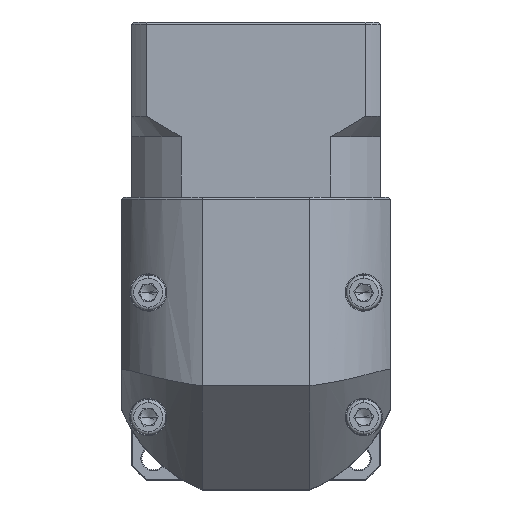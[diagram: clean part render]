
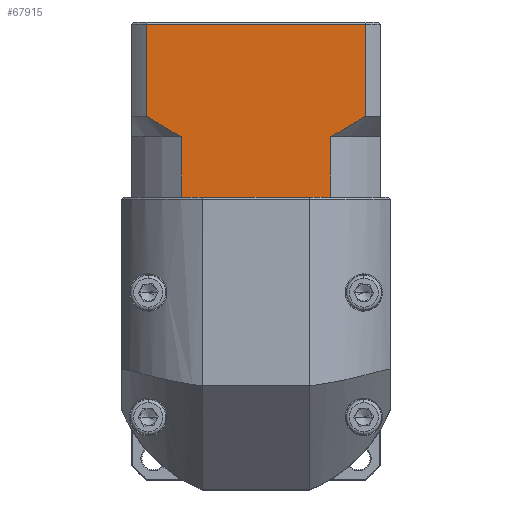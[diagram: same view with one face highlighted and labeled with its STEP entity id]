
A CAD part, top view. The second image highlights one B-rep face of the part: STEP entity #67915.
In plain terms, the highlighted planar face has unit normal (0, 0, 1).
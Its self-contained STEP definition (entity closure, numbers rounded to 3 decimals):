
#1301 = LINE ( 'NONE', #21452, #21660 ) ;
#2653 = VERTEX_POINT ( 'NONE', #83007 ) ;
#3713 = CARTESIAN_POINT ( 'NONE',  ( -96.006, 64.991, 82.485 ) ) ;
#4550 = DIRECTION ( 'NONE',  ( 0., -1., 0. ) ) ;
#5237 = LINE ( 'NONE', #99705, #94793 ) ;
#5372 = DIRECTION ( 'NONE',  ( 1., 0., 0. ) ) ;
#7696 = VECTOR ( 'NONE', #17915, 1000. ) ;
#9428 = EDGE_CURVE ( 'NONE', #41212, #13573, #100978, .T. ) ;
#10036 = DIRECTION ( 'NONE',  ( 0., 1., 0. ) ) ;
#10302 = CARTESIAN_POINT ( 'NONE',  ( -45.83, 61.764, 82.485 ) ) ;
#10574 = EDGE_CURVE ( 'NONE', #41212, #57211, #53747, .T. ) ;
#13154 = ORIENTED_EDGE ( 'NONE', *, *, #49431, .F. ) ;
#13573 = VERTEX_POINT ( 'NONE', #101416 ) ;
#16163 = VERTEX_POINT ( 'NONE', #57440 ) ;
#16335 = CARTESIAN_POINT ( 'NONE',  ( -51.377, 63.314, 82.485 ) ) ;
#16437 = DIRECTION ( 'NONE',  ( 1., 0., 0. ) ) ;
#16587 = EDGE_LOOP ( 'NONE', ( #83692, #105935, #78566, #66416, #13154, #91865, #60071, #21432, #25481, #29237 ) ) ;
#17389 = B_SPLINE_CURVE_WITH_KNOTS ( 'NONE', 3,
 ( #52052, #59611, #16335, #77013, #112629, #69078 ),
 .UNSPECIFIED., .F., .F.,
 ( 4, 2, 4 ),
 ( 0.1, 0.104, 0.109 ),
 .UNSPECIFIED. ) ;
#17915 = DIRECTION ( 'NONE',  ( 0., -1., 0. ) ) ;
#18320 = CARTESIAN_POINT ( 'NONE',  ( -45.83, 88.964, 82.485 ) ) ;
#20874 = CARTESIAN_POINT ( 'NONE',  ( -45.83, 66.764, 82.485 ) ) ;
#21432 = ORIENTED_EDGE ( 'NONE', *, *, #102633, .T. ) ;
#21452 = CARTESIAN_POINT ( 'NONE',  ( -102.287, 47.264, 82.485 ) ) ;
#21660 = VECTOR ( 'NONE', #81778, 1000. ) ;
#23960 = CARTESIAN_POINT ( 'NONE',  ( -90.315, 47.264, 82.485 ) ) ;
#24179 = VERTEX_POINT ( 'NONE', #34630 ) ;
#25481 = ORIENTED_EDGE ( 'NONE', *, *, #97970, .F. ) ;
#27886 = VECTOR ( 'NONE', #52958, 1000. ) ;
#28020 = FACE_OUTER_BOUND ( 'NONE', #16587, .T. ) ;
#29102 = VERTEX_POINT ( 'NONE', #110788 ) ;
#29237 = ORIENTED_EDGE ( 'NONE', *, *, #67315, .T. ) ;
#31066 = VERTEX_POINT ( 'NONE', #82331 ) ;
#31721 = DIRECTION ( 'NONE',  ( 0., 1., 0. ) ) ;
#32114 = LINE ( 'NONE', #60778, #51111 ) ;
#34630 = CARTESIAN_POINT ( 'NONE',  ( -89.324, 47.264, 82.485 ) ) ;
#38286 = CARTESIAN_POINT ( 'NONE',  ( -98.745, 66.764, 82.485 ) ) ;
#38614 = EDGE_CURVE ( 'NONE', #48655, #24179, #43054, .T. ) ;
#38966 = CARTESIAN_POINT ( 'NONE',  ( -102.287, 89.464, 82.485 ) ) ;
#39217 = CARTESIAN_POINT ( 'NONE',  ( -102.287, 47.264, 82.485 ) ) ;
#41212 = VERTEX_POINT ( 'NONE', #18320 ) ;
#42292 = DIRECTION ( 'NONE',  ( 0., 1., 0. ) ) ;
#43054 = LINE ( 'NONE', #59357, #48306 ) ;
#43991 = VECTOR ( 'NONE', #10036, 1000. ) ;
#48306 = VECTOR ( 'NONE', #16437, 1000. ) ;
#48655 = VERTEX_POINT ( 'NONE', #23960 ) ;
#49431 = EDGE_CURVE ( 'NONE', #48655, #16163, #75093, .T. ) ;
#51111 = VECTOR ( 'NONE', #42292, 1000. ) ;
#52052 = CARTESIAN_POINT ( 'NONE',  ( -54.259, 61.764, 82.485 ) ) ;
#52593 = AXIS2_PLACEMENT_3D ( 'NONE', #38966, #108285, #31721 ) ;
#52958 = DIRECTION ( 'NONE',  ( -1., 0., 0. ) ) ;
#53374 = LINE ( 'NONE', #39217, #94006 ) ;
#53747 = LINE ( 'NONE', #10302, #7696 ) ;
#56872 = EDGE_CURVE ( 'NONE', #31066, #13573, #32114, .T. ) ;
#57211 = VERTEX_POINT ( 'NONE', #20874 ) ;
#57440 = CARTESIAN_POINT ( 'NONE',  ( -90.315, 61.764, 82.485 ) ) ;
#59357 = CARTESIAN_POINT ( 'NONE',  ( -102.287, 47.264, 82.485 ) ) ;
#59611 = CARTESIAN_POINT ( 'NONE',  ( -52.803, 62.514, 82.485 ) ) ;
#60071 = ORIENTED_EDGE ( 'NONE', *, *, #64015, .T. ) ;
#60778 = CARTESIAN_POINT ( 'NONE',  ( -98.745, 61.764, 82.485 ) ) ;
#64015 = EDGE_CURVE ( 'NONE', #24179, #2653, #53374, .T. ) ;
#64413 = CARTESIAN_POINT ( 'NONE',  ( -93.198, 63.315, 82.485 ) ) ;
#66416 = ORIENTED_EDGE ( 'NONE', *, *, #99372, .T. ) ;
#67315 = EDGE_CURVE ( 'NONE', #29102, #57211, #17389, .T. ) ;
#67915 = ADVANCED_FACE ( 'NONE', ( #28020 ), #74874, .F. ) ;
#69078 = CARTESIAN_POINT ( 'NONE',  ( -45.83, 66.764, 82.485 ) ) ;
#71097 = CARTESIAN_POINT ( 'NONE',  ( -90.315, 61.764, 82.485 ) ) ;
#73694 = CARTESIAN_POINT ( 'NONE',  ( -54.259, 47.264, 82.485 ) ) ;
#74874 = PLANE ( 'NONE',  #52593 ) ;
#75093 = LINE ( 'NONE', #71097, #43991 ) ;
#77013 = CARTESIAN_POINT ( 'NONE',  ( -48.572, 64.988, 82.485 ) ) ;
#78566 = ORIENTED_EDGE ( 'NONE', *, *, #56872, .F. ) ;
#81778 = DIRECTION ( 'NONE',  ( 1., 0., 0. ) ) ;
#82331 = CARTESIAN_POINT ( 'NONE',  ( -98.745, 66.764, 82.485 ) ) ;
#83007 = CARTESIAN_POINT ( 'NONE',  ( -55.25, 47.264, 82.485 ) ) ;
#83692 = ORIENTED_EDGE ( 'NONE', *, *, #10574, .F. ) ;
#87493 = VERTEX_POINT ( 'NONE', #73694 ) ;
#87757 = CARTESIAN_POINT ( 'NONE',  ( -102.287, 88.964, 82.485 ) ) ;
#90512 = CARTESIAN_POINT ( 'NONE',  ( -91.767, 62.512, 82.485 ) ) ;
#91865 = ORIENTED_EDGE ( 'NONE', *, *, #38614, .T. ) ;
#94006 = VECTOR ( 'NONE', #5372, 1000. ) ;
#94793 = VECTOR ( 'NONE', #4550, 1000. ) ;
#97970 = EDGE_CURVE ( 'NONE', #29102, #87493, #5237, .T. ) ;
#98874 = CARTESIAN_POINT ( 'NONE',  ( -97.385, 65.864, 82.485 ) ) ;
#99231 = CARTESIAN_POINT ( 'NONE',  ( -90.315, 61.764, 82.485 ) ) ;
#99372 = EDGE_CURVE ( 'NONE', #31066, #16163, #108705, .T. ) ;
#99705 = CARTESIAN_POINT ( 'NONE',  ( -54.259, 61.764, 82.485 ) ) ;
#100978 = LINE ( 'NONE', #87757, #27886 ) ;
#101416 = CARTESIAN_POINT ( 'NONE',  ( -98.745, 88.964, 82.485 ) ) ;
#102633 = EDGE_CURVE ( 'NONE', #2653, #87493, #1301, .T. ) ;
#105935 = ORIENTED_EDGE ( 'NONE', *, *, #9428, .T. ) ;
#108285 = DIRECTION ( 'NONE',  ( 0., 0., -1. ) ) ;
#108705 = B_SPLINE_CURVE_WITH_KNOTS ( 'NONE', 3,
 ( #38286, #98874, #3713, #64413, #90512, #99231 ),
 .UNSPECIFIED., .F., .F.,
 ( 4, 2, 4 ),
 ( 0.052, 0.057, 0.062 ),
 .UNSPECIFIED. ) ;
#110788 = CARTESIAN_POINT ( 'NONE',  ( -54.259, 61.764, 82.485 ) ) ;
#112629 = CARTESIAN_POINT ( 'NONE',  ( -47.192, 65.862, 82.485 ) ) ;
